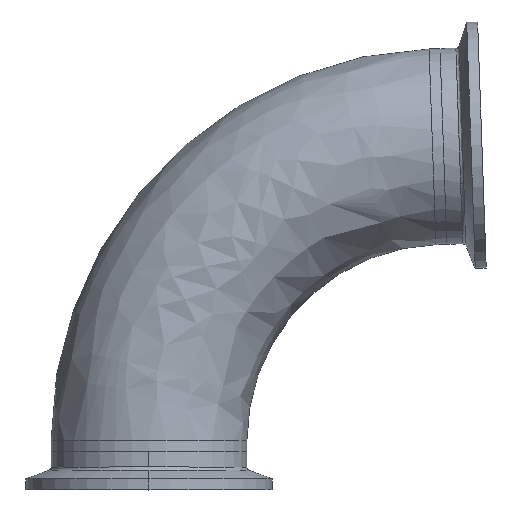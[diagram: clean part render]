
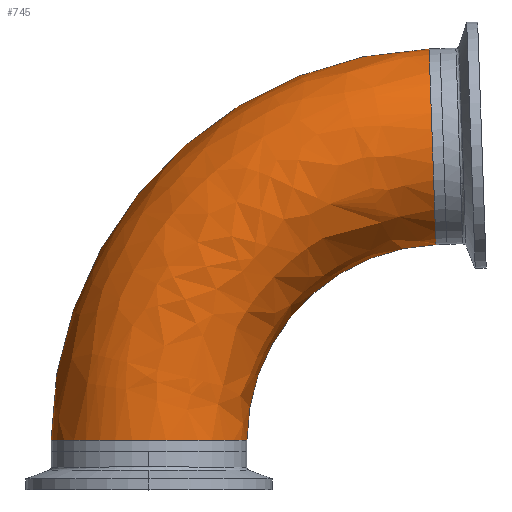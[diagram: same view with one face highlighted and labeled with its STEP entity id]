
A CAD part, top view. The second image highlights one B-rep face of the part: STEP entity #745.
In plain terms, the highlighted free-form (B-spline) face has degree [3, 3] with [4, 4] control points.
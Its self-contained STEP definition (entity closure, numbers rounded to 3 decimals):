
#121 = ORIENTED_EDGE ( 'NONE', *, *, #2109, .T. ) ;
#141 = CARTESIAN_POINT ( 'NONE',  ( -25.4, 60.69, 50.8 ) ) ;
#176 = CARTESIAN_POINT ( 'NONE',  ( -25.4, 2.809, 50.8 ) ) ;
#234 = DIRECTION ( 'NONE',  ( 0., 0., -1. ) ) ;
#362 = CARTESIAN_POINT ( 'NONE',  ( 72.654, 104.347, 0. ) ) ;
#370 = CIRCLE ( 'NONE', #704, 25.4 ) ;
#375 = ORIENTED_EDGE ( 'NONE', *, *, #1421, .T. ) ;
#403 =( BOUNDED_SURFACE ( )  B_SPLINE_SURFACE ( 3, 3, ( 
 ( #2142, #2410, #437, #362 ),
 ( #176, #141, #2733, #2468 ),
 ( #2967, #2454, #2440, #1965 ),
 ( #2719, #1465, #933, #3005 ) ),
 .UNSPECIFIED., .F., .F., .T. ) 
 B_SPLINE_SURFACE_WITH_KNOTS ( ( 4, 4 ),
 ( 4, 4 ),
 ( 0., 1. ),
 ( 0., 1. ),
 .UNSPECIFIED. ) 
 GEOMETRIC_REPRESENTATION_ITEM ( )  RATIONAL_B_SPLINE_SURFACE ( (
 ( 1., 0.813, 0.813, 1.),
 ( 0.333, 0.271, 0.271, 0.333),
 ( 0.333, 0.271, 0.271, 0.333),
 ( 1., 0.813, 0.813, 1.) ) ) 
 REPRESENTATION_ITEM ( '' )  SURFACE ( )  );
#437 = CARTESIAN_POINT ( 'NONE',  ( 14.808, 102.327, 0. ) ) ;
#468 = CARTESIAN_POINT ( 'NONE',  ( 72.654, 104.347, 0. ) ) ;
#500 = VERTEX_POINT ( 'NONE', #2317 ) ;
#557 = VERTEX_POINT ( 'NONE', #3210 ) ;
#681 = EDGE_CURVE ( 'NONE', #557, #969, #2803, .T. ) ;
#704 = AXIS2_PLACEMENT_3D ( 'NONE', #2538, #2523, #2514 ) ;
#745 = ADVANCED_FACE ( 'NONE', ( #1942 ), #403, .T. ) ;
#878 = CARTESIAN_POINT ( 'NONE',  ( -25.4, 2.809, 0. ) ) ;
#933 = CARTESIAN_POINT ( 'NONE',  ( 45.504, 52.568, 0. ) ) ;
#969 = VERTEX_POINT ( 'NONE', #468 ) ;
#1182 = ORIENTED_EDGE ( 'NONE', *, *, #1504, .F. ) ;
#1260 = DIRECTION ( 'NONE',  ( -1., 0., 0. ) ) ;
#1286 = DIRECTION ( 'NONE',  ( 0., 0., -1. ) ) ;
#1295 = CARTESIAN_POINT ( 'NONE',  ( 76.2, 2.809, 0. ) ) ;
#1380 = AXIS2_PLACEMENT_3D ( 'NONE', #1295, #1286, #1260 ) ;
#1421 = EDGE_CURVE ( 'NONE', #2720, #500, #370, .T. ) ;
#1423 = AXIS2_PLACEMENT_3D ( 'NONE', #1759, #234, #2018 ) ;
#1465 = CARTESIAN_POINT ( 'NONE',  ( 25.4, 31.75, 0. ) ) ;
#1504 = EDGE_CURVE ( 'NONE', #2720, #969, #2933, .T. ) ;
#1583 = EDGE_LOOP ( 'NONE', ( #375, #121, #2934, #1182 ) ) ;
#1759 = CARTESIAN_POINT ( 'NONE',  ( 76.2, 2.809, 0. ) ) ;
#1896 = CARTESIAN_POINT ( 'NONE',  ( 73.541, 78.962, 0. ) ) ;
#1942 = FACE_OUTER_BOUND ( 'NONE', #1583, .T. ) ;
#1965 = CARTESIAN_POINT ( 'NONE',  ( 74.427, 53.578, 50.8 ) ) ;
#2018 = DIRECTION ( 'NONE',  ( -1., 0., 0. ) ) ;
#2109 = EDGE_CURVE ( 'NONE', #500, #557, #3163, .T. ) ;
#2140 = DIRECTION ( 'NONE',  ( -0.999, -0.035, 0. ) ) ;
#2142 = CARTESIAN_POINT ( 'NONE',  ( -25.4, 2.809, 0. ) ) ;
#2166 = DIRECTION ( 'NONE',  ( -0.035, 0.999, 0. ) ) ;
#2317 = CARTESIAN_POINT ( 'NONE',  ( 25.4, 2.809, 0. ) ) ;
#2410 = CARTESIAN_POINT ( 'NONE',  ( -25.4, 60.69, 0. ) ) ;
#2440 = CARTESIAN_POINT ( 'NONE',  ( 45.504, 52.568, 50.8 ) ) ;
#2454 = CARTESIAN_POINT ( 'NONE',  ( 25.4, 31.75, 50.8 ) ) ;
#2468 = CARTESIAN_POINT ( 'NONE',  ( 72.654, 104.347, 50.8 ) ) ;
#2514 = DIRECTION ( 'NONE',  ( -1., 0., 0. ) ) ;
#2523 = DIRECTION ( 'NONE',  ( 0., 1., 0. ) ) ;
#2538 = CARTESIAN_POINT ( 'NONE',  ( 0., 2.809, 0. ) ) ;
#2719 = CARTESIAN_POINT ( 'NONE',  ( 25.4, 2.809, 0. ) ) ;
#2720 = VERTEX_POINT ( 'NONE', #878 ) ;
#2733 = CARTESIAN_POINT ( 'NONE',  ( 14.808, 102.327, 50.8 ) ) ;
#2753 = AXIS2_PLACEMENT_3D ( 'NONE', #1896, #2140, #2166 ) ;
#2803 = CIRCLE ( 'NONE', #2753, 25.4 ) ;
#2933 = CIRCLE ( 'NONE', #1380, 101.6 ) ;
#2934 = ORIENTED_EDGE ( 'NONE', *, *, #681, .T. ) ;
#2967 = CARTESIAN_POINT ( 'NONE',  ( 25.4, 2.809, 50.8 ) ) ;
#3005 = CARTESIAN_POINT ( 'NONE',  ( 74.427, 53.578, 0. ) ) ;
#3163 = CIRCLE ( 'NONE', #1423, 50.8 ) ;
#3210 = CARTESIAN_POINT ( 'NONE',  ( 74.427, 53.578, 0. ) ) ;
